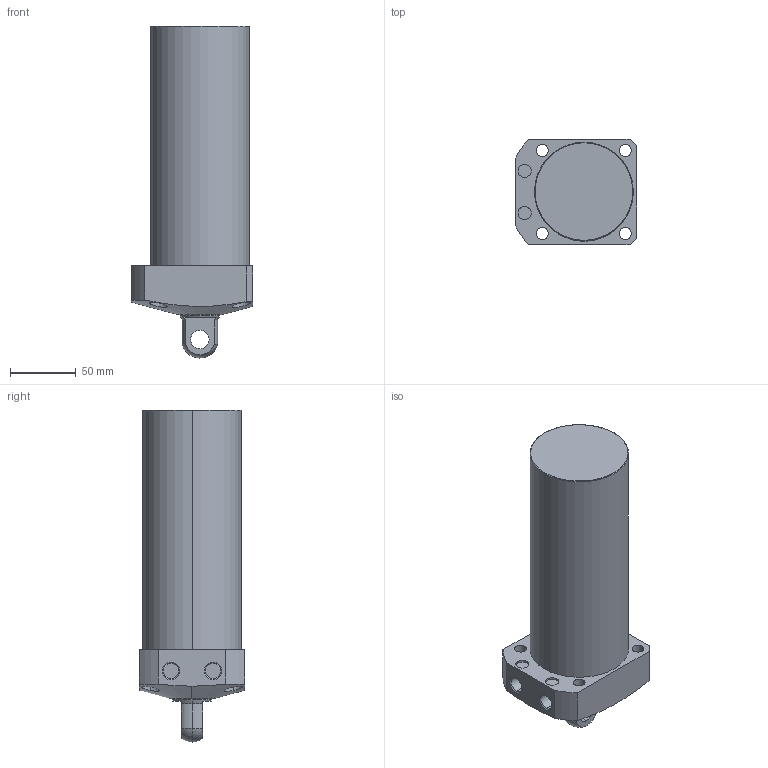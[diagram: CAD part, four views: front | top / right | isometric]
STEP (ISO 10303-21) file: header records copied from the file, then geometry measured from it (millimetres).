
FILE_DESCRIPTION (( 'STEP AP203' ), '1' );
FILE_NAME ('CLL-075CP-145.STEP', '2019-12-25T07:58:22', ( '' ), ( '' ), 'SwSTEP 2.0', 'SolidWorks 2015', '' );
FILE_SCHEMA (( 'CONFIG_CONTROL_DESIGN' ));
Length unit declared in the file: millimetre
Products named in the file (1): CLL-075CP-145
Bounding box: 92 x 80 x 252 mm (x, y, z)
Volume: 1031493.2 mm3; surface area: 74786.4 mm2
Topology: 1 solids, 1 shells, 68 faces, 159 edges, 103 vertices
Faces by surface type: cylinder 35, plane 21, cone 8, sphere 2, torus 2
Entity records: 2459 total; most frequent: CARTESIAN_POINT 762, DIRECTION 357, ORIENTED_EDGE 318, EDGE_CURVE 159, AXIS2_PLACEMENT_3D 149, VERTEX_POINT 103, EDGE_LOOP 88, CIRCLE 80
